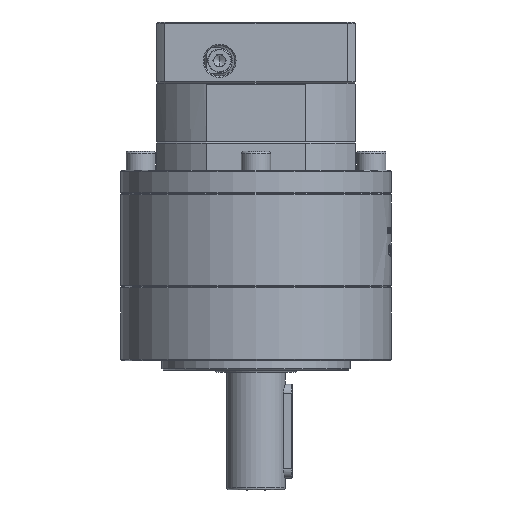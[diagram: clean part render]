
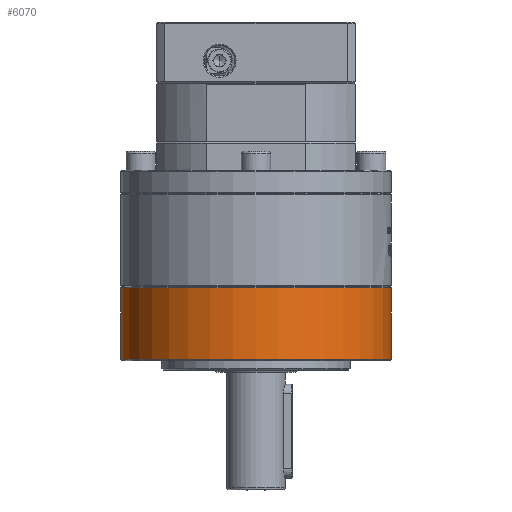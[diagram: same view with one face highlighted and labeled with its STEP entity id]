
A CAD part, left-side view. The second image highlights one B-rep face of the part: STEP entity #6070.
In plain terms, the highlighted cylindrical face has radius 57.5 mm (diameter 115 mm), a partial arc.
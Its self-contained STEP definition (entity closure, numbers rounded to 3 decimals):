
#1055 = CARTESIAN_POINT ( 'NONE',  ( 96.628, 11.312, -98.213 ) ) ;
#3497 = DIRECTION ( 'NONE',  ( 0., 1., 0. ) ) ;
#6070 = ADVANCED_FACE ( 'NONE', ( #102690 ), #96598, .T. ) ;
#6278 = VERTEX_POINT ( 'NONE', #114493 ) ;
#12457 = DIRECTION ( 'NONE',  ( 0., 0., 1. ) ) ;
#18918 = AXIS2_PLACEMENT_3D ( 'NONE', #40344, #118015, #70517 ) ;
#24899 = ORIENTED_EDGE ( 'NONE', *, *, #97834, .T. ) ;
#25769 = EDGE_LOOP ( 'NONE', ( #105471, #24899, #109757, #114944 ) ) ;
#27342 = CARTESIAN_POINT ( 'NONE',  ( 96.628, -103.688, -98.213 ) ) ;
#40344 = CARTESIAN_POINT ( 'NONE',  ( 96.628, -46.188, -85.713 ) ) ;
#51393 = AXIS2_PLACEMENT_3D ( 'NONE', #108653, #62007, #71797 ) ;
#52346 = EDGE_CURVE ( 'NONE', #6278, #125126, #88744, .T. ) ;
#59206 = CARTESIAN_POINT ( 'NONE',  ( 96.628, -103.688, -67.713 ) ) ;
#61839 = CARTESIAN_POINT ( 'NONE',  ( 96.628, -46.188, -67.713 ) ) ;
#62007 = DIRECTION ( 'NONE',  ( 0., 0., 1. ) ) ;
#64104 = VERTEX_POINT ( 'NONE', #27342 ) ;
#68188 = EDGE_CURVE ( 'NONE', #64104, #125126, #121326, .T. ) ;
#70517 = DIRECTION ( 'NONE',  ( 0., -1., 0. ) ) ;
#71797 = DIRECTION ( 'NONE',  ( 0., -1., 0. ) ) ;
#73620 = VECTOR ( 'NONE', #116548, 1000. ) ;
#76724 = CARTESIAN_POINT ( 'NONE',  ( 96.628, 11.312, -85.713 ) ) ;
#82548 = CIRCLE ( 'NONE', #51393, 57.5 ) ;
#84263 = CARTESIAN_POINT ( 'NONE',  ( 96.628, -103.688, -85.713 ) ) ;
#88744 = CIRCLE ( 'NONE', #118678, 57.5 ) ;
#94054 = VECTOR ( 'NONE', #124096, 1000. ) ;
#96598 = CYLINDRICAL_SURFACE ( 'NONE', #18918, 57.5 ) ;
#97834 = EDGE_CURVE ( 'NONE', #99874, #64104, #82548, .T. ) ;
#99874 = VERTEX_POINT ( 'NONE', #1055 ) ;
#102690 = FACE_OUTER_BOUND ( 'NONE', #25769, .T. ) ;
#105471 = ORIENTED_EDGE ( 'NONE', *, *, #119123, .F. ) ;
#106872 = LINE ( 'NONE', #76724, #73620 ) ;
#108653 = CARTESIAN_POINT ( 'NONE',  ( 96.628, -46.188, -98.213 ) ) ;
#109757 = ORIENTED_EDGE ( 'NONE', *, *, #68188, .T. ) ;
#114493 = CARTESIAN_POINT ( 'NONE',  ( 96.628, 11.312, -67.713 ) ) ;
#114944 = ORIENTED_EDGE ( 'NONE', *, *, #52346, .F. ) ;
#116548 = DIRECTION ( 'NONE',  ( 0., 0., 1. ) ) ;
#118015 = DIRECTION ( 'NONE',  ( 0., 0., 1. ) ) ;
#118678 = AXIS2_PLACEMENT_3D ( 'NONE', #61839, #12457, #3497 ) ;
#119123 = EDGE_CURVE ( 'NONE', #99874, #6278, #106872, .T. ) ;
#121326 = LINE ( 'NONE', #84263, #94054 ) ;
#124096 = DIRECTION ( 'NONE',  ( 0., 0., 1. ) ) ;
#125126 = VERTEX_POINT ( 'NONE', #59206 ) ;
